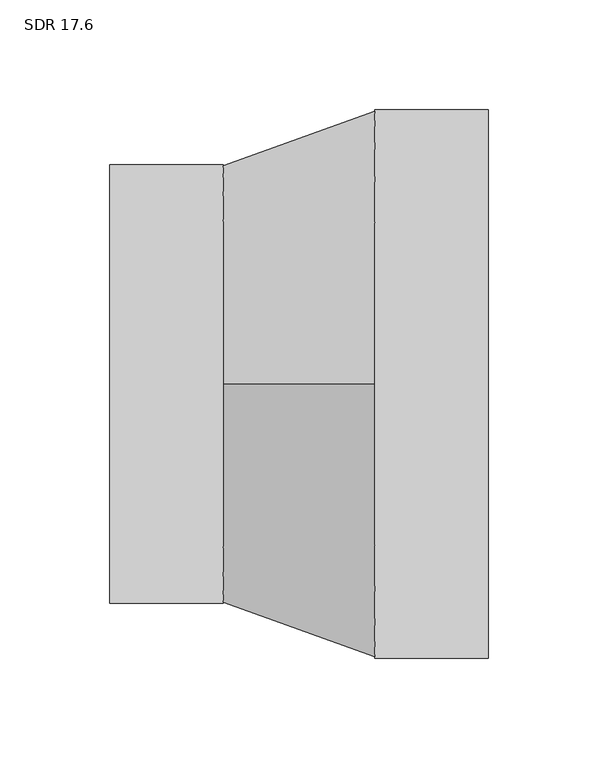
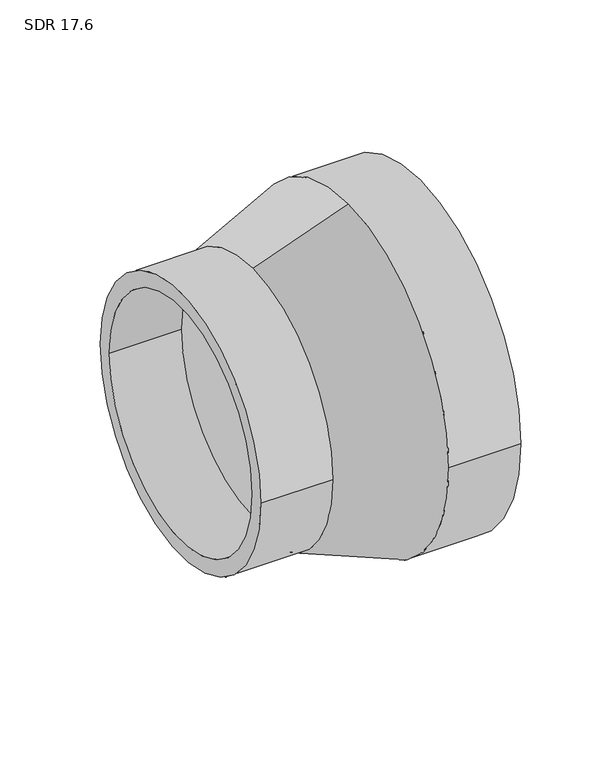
"""IFC4 building model written with IfcOpenShell, lengths in millimetres: pipe fitting geometry, Aquatherm - Reducing Coupling Combined - METRIC : SDR 17.6."""

import ifcopenshell
import ifcopenshell.guid

model = None  # the IFC model being written
_history = None  # IfcOwnerHistory: only IFC2X3 demands one
_inside = {}  # id of a spatial element -> (the spatial element, [elements in it])
_under = {}  # id of a project, library or spatial element -> (it, [spatial elements below it])
_declared = {}  # id of a project -> (the project, [libraries it declares])
_typed = {}  # id of a type object -> (the type object, [elements of that type])
_made_of = {}  # id of a material, layer set ... -> (it, [elements and type objects made of it])


def new_model(schema):
    """Start an empty IFC model of exactly this schema.

    Asked for "IFC4X3", IfcOpenShell would pick the latest addendum, in which some entities
    have other attributes; the version numbers below select the first issue.
    IFC2X3 requires an IfcOwnerHistory on every rooted entity: one is made here for all.
    """
    global model, _history
    if schema == "IFC4X3":
        model = ifcopenshell.file(schema_version=(4, 3, 0, 0))
    else:
        model = ifcopenshell.file(schema=schema)
    _inside.clear()
    _under.clear()
    _declared.clear()
    _typed.clear()
    _made_of.clear()
    _history = None
    if model.schema == "IFC2X3":
        org = make("IfcOrganization", Name="unknown")
        user = make(
            "IfcPersonAndOrganization",
            ThePerson=make("IfcPerson", FamilyName="unknown"),
            TheOrganization=org,
        )
        app = make(
            "IfcApplication",
            ApplicationDeveloper=org,
            Version="unknown",
            ApplicationFullName="unknown",
            ApplicationIdentifier="unknown",
        )
        _history = make(
            "IfcOwnerHistory",
            OwningUser=user,
            OwningApplication=app,
            ChangeAction="ADDED",
            CreationDate=0,
        )
    return model


def make(cls, **values):
    """One entity of the class cls with the attributes given. An attribute that is None is left unset."""
    return model.create_entity(
        cls, **{name: value for name, value in values.items() if value is not None}
    )


def rooted(cls, **values):
    """An entity with a GlobalId (a new one), such as an element, a storey or a relation."""
    return make(cls, GlobalId=ifcopenshell.guid.new(), OwnerHistory=_history, **values)


def si_unit(unit_type, name, prefix=None):
    """IfcSIUnit, for example si_unit("LENGTHUNIT", "METRE", prefix="MILLI")."""
    return make("IfcSIUnit", UnitType=unit_type, Prefix=prefix, Name=name)


def assignment(units):
    """IfcUnitAssignment: the units of a project."""
    return None if units is None else make("IfcUnitAssignment", Units=units)


def point(xyz):
    """IfcCartesianPoint."""
    return None if xyz is None else make("IfcCartesianPoint", Coordinates=xyz)


def direction(xyz):
    """IfcDirection."""
    return None if xyz is None else make("IfcDirection", DirectionRatios=xyz)


def frame(location, z_axis=None, x_axis=None):
    """IfcAxis2Placement3D, a coordinate frame: its origin and axes. An axis left out is left unset."""
    return make(
        "IfcAxis2Placement3D",
        Location=point(location),
        Axis=direction(z_axis),
        RefDirection=direction(x_axis),
    )


def origin():
    """The frame at (0, 0, 0) with its axes left unset."""
    return frame((0.0, 0.0, 0.0))


def place(relative_to, where):
    """IfcLocalPlacement: puts the frame where relative to a parent placement (None: the world)."""
    return make(
        "IfcLocalPlacement", PlacementRelTo=relative_to, RelativePlacement=where
    )


def context(
    kind, dimensions, precision=None, world=None, true_north=None, identifier=None
):
    """IfcGeometricRepresentationContext, for example the 3D "Model" context."""
    return make(
        "IfcGeometricRepresentationContext",
        ContextIdentifier=identifier,
        ContextType=kind,
        CoordinateSpaceDimension=dimensions,
        Precision=precision,
        WorldCoordinateSystem=world,
        TrueNorth=true_north,
    )


def project(units=None, contexts=None):
    """IfcProject with its units and contexts."""
    return rooted(
        "IfcProject",
        Name="project",
        RepresentationContexts=contexts,
        UnitsInContext=assignment(units),
    )


def spatial(cls, under=None, at=None, **own):
    """A site, building, storey or space (cls), placed at a placement, below another one or the project."""
    s = rooted(cls, ObjectPlacement=at, **own)
    if under is not None:
        _under.setdefault(under.id(), (under, []))[1].append(s)
    return s


def polyline(points):
    """IfcPolyline through the points."""
    return make("IfcPolyline", Points=[point(p) for p in points])


def circle_curve(where, radius):
    """IfcCircle in the frame where."""
    return make("IfcCircle", Position=where, Radius=radius)


def shape(context_of_items, identifier, shape_type, items):
    """IfcShapeRepresentation: the items that make up one representation, for example the "Body"."""
    return make(
        "IfcShapeRepresentation",
        ContextOfItems=context_of_items,
        RepresentationIdentifier=identifier,
        RepresentationType=shape_type,
        Items=items,
    )


def source(mapping_origin, context_of_items, identifier, shape_type, items):
    """IfcRepresentationMap: a shape defined once, which mapped items show again and again."""
    return make(
        "IfcRepresentationMap",
        MappingOrigin=mapping_origin,
        MappedRepresentation=shape(context_of_items, identifier, shape_type, items),
    )


def transform(
    local_origin,
    x_axis=None,
    y_axis=None,
    z_axis=None,
    scale=None,
    scale2=None,
    scale3=None,
    uniform=True,
):
    """IfcCartesianTransformationOperator3D, or its non-uniform kind. x_axis, y_axis, z_axis: its Axis1, 2, 3."""
    if uniform:
        return make(
            "IfcCartesianTransformationOperator3D",
            Axis1=direction(x_axis),
            Axis2=direction(y_axis),
            LocalOrigin=point(local_origin),
            Scale=scale,
            Axis3=direction(z_axis),
        )
    return make(
        "IfcCartesianTransformationOperator3DnonUniform",
        Axis1=direction(x_axis),
        Axis2=direction(y_axis),
        LocalOrigin=point(local_origin),
        Scale=scale,
        Axis3=direction(z_axis),
        Scale2=scale2,
        Scale3=scale3,
    )


def mapped(mapping_source, mapping_target):
    """IfcMappedItem: shows the shape of a source again, moved by a transform."""
    return make(
        "IfcMappedItem", MappingSource=mapping_source, MappingTarget=mapping_target
    )


def made_of(thing, what):
    """Note that an element or type object is made of a material, layer set ...; save() writes the relation."""
    if what is not None:
        _made_of.setdefault(what.id(), (what, []))[1].append(thing)
    return thing


def element(
    cls,
    number,
    at=None,
    inside=None,
    cuts=None,
    type_object=None,
    material=None,
    context=None,
    identifier="Body",
    shape_type=None,
    held_by="IfcProductDefinitionShape",
    body=None,
    shapes=None,
    **own,
):
    """One element of the class cls, such as IfcWall. Its Tag is "e" and its number.

    at: its placement. inside: the storey or other place that contains it. cuts: it is an
    opening in that element (IfcRelVoidsElement). A single representation is given by context,
    identifier, shape_type and body (its items); several are given by shapes. held_by: the class
    of the entity that holds the representations. save() writes the other relations.
    """
    e = rooted(cls, Tag="e%d" % number, ObjectPlacement=at, **own)
    if body is not None:
        shapes = [shape(context, identifier, shape_type, body)]
    if shapes is not None:
        e.Representation = make(held_by, Representations=shapes)
    if inside is not None:
        _inside.setdefault(inside.id(), (inside, []))[1].append(e)
    if cuts is not None:
        rooted(
            "IfcRelVoidsElement", RelatingBuildingElement=cuts, RelatedOpeningElement=e
        )
    if type_object is not None:
        _typed.setdefault(type_object.id(), (type_object, []))[1].append(e)
    return made_of(e, material)


def aggregate(whole, parts):
    """IfcRelAggregates: a whole, such as a stair, and the parts it consists of."""
    return rooted("IfcRelAggregates", RelatingObject=whole, RelatedObjects=parts)


def save(model, path):
    """Write the relations noted so far, then the file.

    IfcRelAggregates (storeys below a building ...), IfcRelContainedInSpatialStructure (elements
    in a storey), IfcRelDefinesByType, IfcRelAssociatesMaterial and IfcRelDeclares: one each for
    every whole, place, type object, material and project.
    """
    for whole, parts in _under.values():
        aggregate(whole, parts)
    for where, things in _inside.values():
        rooted(
            "IfcRelContainedInSpatialStructure",
            RelatedElements=things,
            RelatingStructure=where,
        )
    for kind, things in _typed.values():
        rooted("IfcRelDefinesByType", RelatedObjects=things, RelatingType=kind)
    for what, things in _made_of.values():
        rooted("IfcRelAssociatesMaterial", RelatedObjects=things, RelatingMaterial=what)
    for by, libraries in _declared.values():
        rooted("IfcRelDeclares", RelatingContext=by, RelatedDefinitions=libraries)
    model.write(path)


def plane_surface(at):
    """IfcPlane: the flat surface through the origin of the frame at, square to its z axis."""
    return make("IfcPlane", Position=at)


def cylinder_surface(at, radius):
    """IfcCylindricalSurface: all points at the distance radius from the z axis of the frame at."""
    return make("IfcCylindricalSurface", Position=at, Radius=radius)


def revolved_surface(curve, axis_point, axis_direction):
    """IfcSurfaceOfRevolution: the curve turned about the line through axis_point along axis_direction."""
    return make(
        "IfcSurfaceOfRevolution",
        SweptCurve=make("IfcArbitraryOpenProfileDef", ProfileType="CURVE", Curve=curve),
        AxisPosition=make("IfcAxis1Placement", Location=point(axis_point), Axis=direction(axis_direction)),
    )


def advanced_brep(points, edges, surfaces, faces):
    """IfcAdvancedBrep: a solid bounded by faces that lie on surfaces and meet in shared edges.

    An edge is (start, end): straight between two places in points (the first is 0);
    or (start, end, curve); or (start, end, curve, False) where it runs against its curve.
    A face is (place in surfaces, loops), or (place, loops, False) where it looks against
    its surface's normal. A loop lists edges by number (the first is 1), with a minus sign
    where the edge is run from its end to its start. The first loop is the outer one.
    """
    corners = [point(p) for p in points]
    vertices = [make("IfcVertexPoint", VertexGeometry=c) for c in corners]
    made = []
    for start, end, *more in edges:
        made.append(
            make(
                "IfcEdgeCurve",
                EdgeStart=vertices[start],
                EdgeEnd=vertices[end],
                EdgeGeometry=more[0] if more else make("IfcPolyline", Points=[corners[start], corners[end]]),
                SameSense=more[1] if len(more) > 1 else True,
            )
        )
    hull = []
    for where, loops, *sense in faces:
        bounds = []
        for j, loop in enumerate(loops):
            ring = [make("IfcOrientedEdge", EdgeElement=made[abs(k) - 1], Orientation=k > 0) for k in loop]
            bounds.append(
                make(
                    "IfcFaceOuterBound" if j == 0 else "IfcFaceBound",
                    Bound=make("IfcEdgeLoop", EdgeList=ring),
                    Orientation=True,
                )
            )
        hull.append(make("IfcAdvancedFace", Bounds=bounds, FaceSurface=surfaces[where], SameSense=sense[0] if sense else True))
    return make("IfcAdvancedBrep", Outer=make("IfcClosedShell", CfsFaces=hull))


def sdr_17_6_c6fb6de5(model_context):
    return source(origin(), model_context, "Body", "AdvancedBrep", [
        advanced_brep(
        [(-86.233, -99.949, 0.0), (-86.233, 99.949, 0.0), (-86.233, -88.5911591, 0.0), (-86.233, 88.5911591, 0.0), (-34.4932, 88.5911591, 0.0), (-34.4932, 0.0, 88.5911591), (-34.4932, -88.5911591, 0.0), (-34.4932, 0.0, -88.5911591), (-34.4932, 99.949, 0.0), (-34.4932, 0.0, -99.949), (-34.4932, -99.949, 0.0), (-34.4932, 0.0, 99.949), (86.233, -124.968, 0.0), (86.233, 124.968, 0.0), (86.233, -110.7670909, 0.0), (86.233, 110.7670909, 0.0), (34.4932, -124.968, 0.0), (34.4932, 0.0, -124.968), (34.4932, 124.968, 0.0), (34.4932, 0.0, 124.968), (34.4932, -110.7670909, 0.0), (34.4932, 0.0, 110.7670909), (34.4932, 110.7670909, 0.0), (34.4932, 0.0, -110.7670909)],
        [
            (0, 1, circle_curve(frame((-86.233, 0.0, 0.0), z_axis=(-1.0, 0.0, 0.0), x_axis=(0.0, 1.0, 0.0)), 99.949)),
            (1, 0, circle_curve(frame((-86.233, 0.0, 0.0), z_axis=(-1.0, 0.0, 0.0), x_axis=(0.0, 1.0, 0.0)), 99.949)),
            (2, 3, circle_curve(frame((-86.233, 0.0, 0.0), z_axis=(1.0, 0.0, 0.0), x_axis=(0.0, 1.0, 0.0)), 88.5911591)),
            (3, 2, circle_curve(frame((-86.233, 0.0, 0.0), z_axis=(1.0, 0.0, 0.0), x_axis=(0.0, 1.0, 0.0)), 88.5911591)),
            (3, 4),
            (4, 5, circle_curve(frame((-34.4932, 0.0, 0.0), z_axis=(1.0, 0.0, 0.0), x_axis=(0.0, 1.0, 0.0)), 88.5911591)),
            (5, 6, circle_curve(frame((-34.4932, 0.0, 0.0), z_axis=(1.0, 0.0, 0.0), x_axis=(0.0, 1.0, 0.0)), 88.5911591)),
            (6, 2),
            (6, 7, circle_curve(frame((-34.4932, 0.0, 0.0), z_axis=(1.0, 0.0, 0.0), x_axis=(0.0, 1.0, 0.0)), 88.5911591)),
            (7, 4, circle_curve(frame((-34.4932, 0.0, 0.0), z_axis=(1.0, 0.0, 0.0), x_axis=(0.0, 1.0, 0.0)), 88.5911591)),
            (1, 8),
            (8, 9, circle_curve(frame((-34.4932, 0.0, 0.0), z_axis=(-1.0, 0.0, 0.0), x_axis=(0.0, 1.0, 0.0)), 99.949)),
            (9, 10, circle_curve(frame((-34.4932, 0.0, 0.0), z_axis=(-1.0, 0.0, 0.0), x_axis=(0.0, 1.0, 0.0)), 99.949)),
            (10, 0),
            (10, 11, circle_curve(frame((-34.4932, 0.0, 0.0), z_axis=(-1.0, 0.0, 0.0), x_axis=(0.0, 1.0, 0.0)), 99.949)),
            (11, 8, circle_curve(frame((-34.4932, 0.0, 0.0), z_axis=(-1.0, 0.0, 0.0), x_axis=(0.0, 1.0, 0.0)), 99.949)),
            (12, 13, circle_curve(frame((86.233, 0.0, 0.0), z_axis=(1.0, 0.0, 0.0), x_axis=(0.0, 1.0, 0.0)), 124.968)),
            (13, 12, circle_curve(frame((86.233, 0.0, 0.0), z_axis=(1.0, 0.0, 0.0), x_axis=(0.0, 1.0, 0.0)), 124.968)),
            (14, 15, circle_curve(frame((86.233, 0.0, 0.0), z_axis=(-1.0, 0.0, 0.0), x_axis=(0.0, 1.0, 0.0)), 110.7670909)),
            (15, 14, circle_curve(frame((86.233, 0.0, 0.0), z_axis=(-1.0, 0.0, 0.0), x_axis=(0.0, 1.0, 0.0)), 110.7670909)),
            (12, 16),
            (16, 17, circle_curve(frame((34.4932, 0.0, 0.0), z_axis=(1.0, 0.0, 0.0), x_axis=(0.0, 1.0, 0.0)), 124.968)),
            (17, 18, circle_curve(frame((34.4932, 0.0, 0.0), z_axis=(1.0, 0.0, 0.0), x_axis=(0.0, 1.0, 0.0)), 124.968)),
            (18, 13),
            (18, 19, circle_curve(frame((34.4932, 0.0, 0.0), z_axis=(1.0, 0.0, 0.0), x_axis=(0.0, 1.0, 0.0)), 124.968)),
            (19, 16, circle_curve(frame((34.4932, 0.0, 0.0), z_axis=(1.0, 0.0, 0.0), x_axis=(0.0, 1.0, 0.0)), 124.968)),
            (14, 20),
            (20, 21, circle_curve(frame((34.4932, 0.0, 0.0), z_axis=(-1.0, 0.0, 0.0), x_axis=(0.0, 1.0, 0.0)), 110.7670909)),
            (21, 22, circle_curve(frame((34.4932, 0.0, 0.0), z_axis=(-1.0, 0.0, 0.0), x_axis=(0.0, 1.0, 0.0)), 110.7670909)),
            (22, 15),
            (22, 23, circle_curve(frame((34.4932, 0.0, 0.0), z_axis=(-1.0, 0.0, 0.0), x_axis=(0.0, 1.0, 0.0)), 110.7670909)),
            (23, 20, circle_curve(frame((34.4932, 0.0, 0.0), z_axis=(-1.0, 0.0, 0.0), x_axis=(0.0, 1.0, 0.0)), 110.7670909)),
            (11, 19),
            (17, 9),
            (21, 5),
            (7, 23),
        ],
        [
            plane_surface(frame((-86.233, 88.5911591, 0.0), z_axis=(-1.0, 0.0, 0.0), x_axis=(0.0, 0.0, 1.0))),
            revolved_surface(polyline([(-86.233, 88.5911591, 0.0), (-34.4932, 88.5911591, 0.0)]), (-86.233, 0.0, 0.0), (-1.0, 0.0, 0.0)),
            cylinder_surface(frame((0.0, 0.0, 0.0), z_axis=(1.0, 0.0, 0.0), x_axis=(0.0, 1.0, 0.0)), 99.949),
            plane_surface(frame((86.233, 124.968, 0.0), z_axis=(1.0, 0.0, 0.0), x_axis=(0.0, 0.0, 1.0))),
            cylinder_surface(frame((34.4932, 0.0, 0.0), z_axis=(1.0, 0.0, 0.0), x_axis=(0.0, 1.0, 0.0)), 124.968),
            revolved_surface(polyline([(34.4932, 110.7670909, 0.0), (86.233, 110.7670909, 0.0)]), (0.0, 0.0, 0.0), (-1.0, 0.0, 0.0)),
            revolved_surface(polyline([(34.4932, 0.0, 124.968), (-34.4932, 0.0, 99.949)]), (-661.4925384, 0.0, 0.0), (-1.0, 0.0, 0.0)),
            revolved_surface(polyline([(-34.4932, 0.0, 88.5911591), (34.4932, 0.0, 110.7670909)]), (-661.4925384, 0.0, 0.0), (-1.0, 0.0, 0.0)),
        ],
        [
            (0, [[1, 2], [3, 4]]),
            (1, [[-4, 5, 6, 7, 8]]),
            (1, [[-3, -8, 9, 10, -5]]),
            (2, [[-2, 11, 12, 13, 14]]),
            (2, [[-1, -14, 15, 16, -11]]),
            (3, [[17, 18], [19, 20]]),
            (4, [[-17, 21, 22, 23, 24]]),
            (4, [[-18, -24, 25, 26, -21]]),
            (5, [[-19, 27, 28, 29, 30]]),
            (5, [[-20, -30, 31, 32, -27]]),
            (6, [[33, -25, -23, 34, -12, -16]]),
            (6, [[-33, -15, -13, -34, -22, -26]]),
            (7, [[35, -6, -10, 36, -31, -29]]),
            (7, [[-35, -28, -32, -36, -9, -7]]),
        ],
    ),
    ])


if __name__ == "__main__":
    model = new_model("IFC4")
    model_context = context("Model", 3, world=origin())
    ifc_project = project(units=[si_unit("LENGTHUNIT", "METRE", prefix="MILLI")], contexts=[model_context])
    site = spatial("IfcSite", under=ifc_project)
    building = spatial("IfcBuilding", under=site)
    placement = place(None, origin())
    sdr_17_6_shape = sdr_17_6_c6fb6de5(model_context)
    element("IfcPipeFitting", 1, ObjectType="Aquatherm - Reducing Coupling Combined - METRIC : SDR 17.6", at=placement, inside=building, context=model_context, shape_type="MappedRepresentation", body=[
        mapped(sdr_17_6_shape, transform((0.0, 0.0, 0.0), x_axis=(1.0, 0.0, 0.0), y_axis=(0.0, 1.0, 0.0), z_axis=(0.0, 0.0, 1.0))),
    ])
    save(model, "model.ifc")
